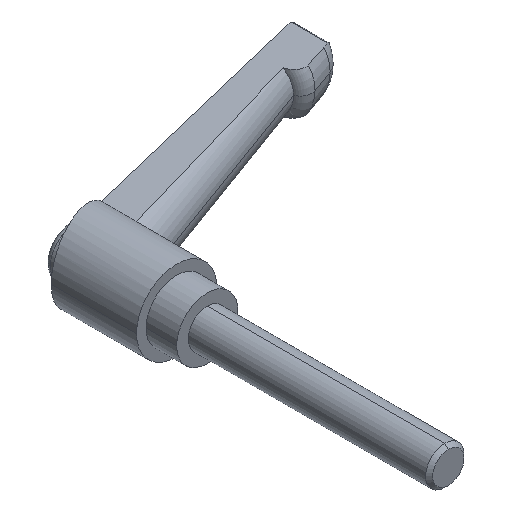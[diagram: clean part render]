
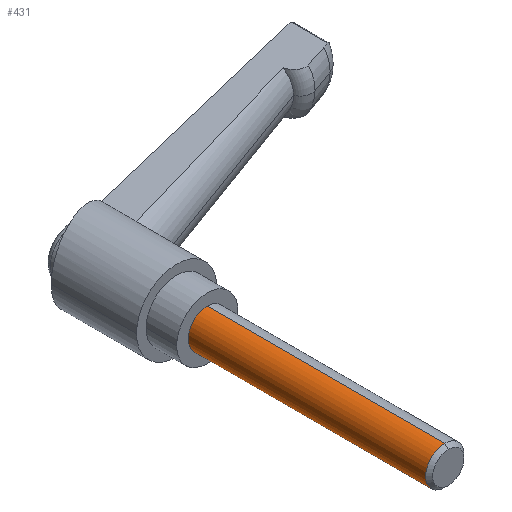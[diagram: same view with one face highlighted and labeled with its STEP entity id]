
A CAD part, isometric view. The second image highlights one B-rep face of the part: STEP entity #431.
In plain terms, the highlighted cylindrical face has radius 5 mm (diameter 10 mm), a partial arc.
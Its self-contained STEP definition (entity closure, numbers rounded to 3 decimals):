
#78 = DIRECTION ( 'NONE',  ( 0., -1., 0. ) ) ;
#178 = EDGE_CURVE ( 'NONE', #1284, #2206, #551, .T. ) ;
#222 = CARTESIAN_POINT ( 'NONE',  ( 0., 0., 5. ) ) ;
#229 = DIRECTION ( 'NONE',  ( 0., -1., 0. ) ) ;
#275 = CARTESIAN_POINT ( 'NONE',  ( 0., -62.08, 0. ) ) ;
#301 = DIRECTION ( 'NONE',  ( 0., -1., 0. ) ) ;
#352 = VERTEX_POINT ( 'NONE', #1518 ) ;
#401 = AXIS2_PLACEMENT_3D ( 'NONE', #275, #78, #462 ) ;
#403 = VECTOR ( 'NONE', #1358, 1000. ) ;
#431 = ADVANCED_FACE ( 'NONE', ( #2319 ), #1566, .T. ) ;
#462 = DIRECTION ( 'NONE',  ( 0., 0., -1. ) ) ;
#532 = EDGE_LOOP ( 'NONE', ( #929, #774, #1759, #1829 ) ) ;
#544 = CARTESIAN_POINT ( 'NONE',  ( 0., 0., 0. ) ) ;
#551 = CIRCLE ( 'NONE', #1838, 5. ) ;
#645 = VECTOR ( 'NONE', #229, 1000. ) ;
#649 = CARTESIAN_POINT ( 'NONE',  ( 0., -63., 5. ) ) ;
#685 = EDGE_CURVE ( 'NONE', #352, #1351, #1412, .T. ) ;
#774 = ORIENTED_EDGE ( 'NONE', *, *, #178, .T. ) ;
#929 = ORIENTED_EDGE ( 'NONE', *, *, #937, .F. ) ;
#937 = EDGE_CURVE ( 'NONE', #1284, #352, #2265, .T. ) ;
#938 = LINE ( 'NONE', #1658, #645 ) ;
#948 = DIRECTION ( 'NONE',  ( 0., -1., 0. ) ) ;
#1019 = DIRECTION ( 'NONE',  ( 0., 0., -1. ) ) ;
#1136 = CARTESIAN_POINT ( 'NONE',  ( 0., 0., -5. ) ) ;
#1280 = DIRECTION ( 'NONE',  ( 0., 0., -1. ) ) ;
#1284 = VERTEX_POINT ( 'NONE', #222 ) ;
#1351 = VERTEX_POINT ( 'NONE', #2248 ) ;
#1358 = DIRECTION ( 'NONE',  ( 0., -1., 0. ) ) ;
#1412 = CIRCLE ( 'NONE', #401, 5. ) ;
#1518 = CARTESIAN_POINT ( 'NONE',  ( 0., -62.08, 5. ) ) ;
#1566 = CYLINDRICAL_SURFACE ( 'NONE', #2253, 5. ) ;
#1593 = EDGE_CURVE ( 'NONE', #2206, #1351, #938, .T. ) ;
#1658 = CARTESIAN_POINT ( 'NONE',  ( 0., -63., -5. ) ) ;
#1759 = ORIENTED_EDGE ( 'NONE', *, *, #1593, .T. ) ;
#1829 = ORIENTED_EDGE ( 'NONE', *, *, #685, .F. ) ;
#1838 = AXIS2_PLACEMENT_3D ( 'NONE', #544, #948, #1280 ) ;
#1963 = CARTESIAN_POINT ( 'NONE',  ( 0., -63., 0. ) ) ;
#2206 = VERTEX_POINT ( 'NONE', #1136 ) ;
#2248 = CARTESIAN_POINT ( 'NONE',  ( 0., -62.08, -5. ) ) ;
#2253 = AXIS2_PLACEMENT_3D ( 'NONE', #1963, #301, #1019 ) ;
#2265 = LINE ( 'NONE', #649, #403 ) ;
#2319 = FACE_OUTER_BOUND ( 'NONE', #532, .T. ) ;
